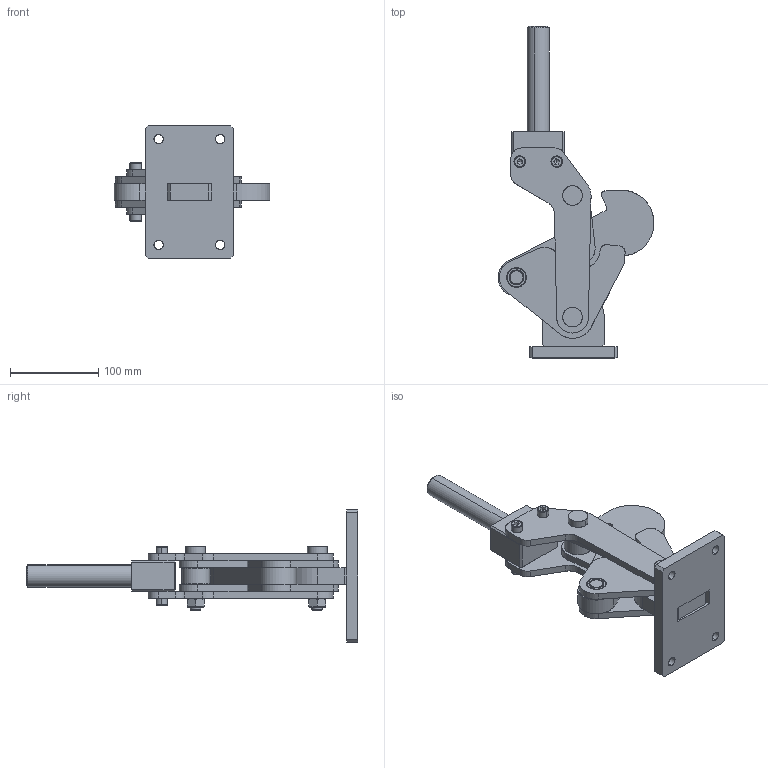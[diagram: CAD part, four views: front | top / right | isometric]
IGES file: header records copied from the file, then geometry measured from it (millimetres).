
Start section: SolidWorks IGES file using analytic representation for surfaces
Global section: file name: C:\Projetos\Grampos\KFU\KFU-08\KFU-08 D.IGS; native system: SolidWorks 2012; preprocessor: SolidWorks 2012; author: Ricardo; date: 121105.173606; units: millimetre
Bounding box: 176.92 x 376.7 x 150 mm (x, y, z)
Surface area: 252109.2 mm2 (no closed solid volume)
Topology: 0 solids, 0 shells, 537 faces, 8166 edges, 8156 vertices
Faces by surface type: revolution 314, bspline 223
